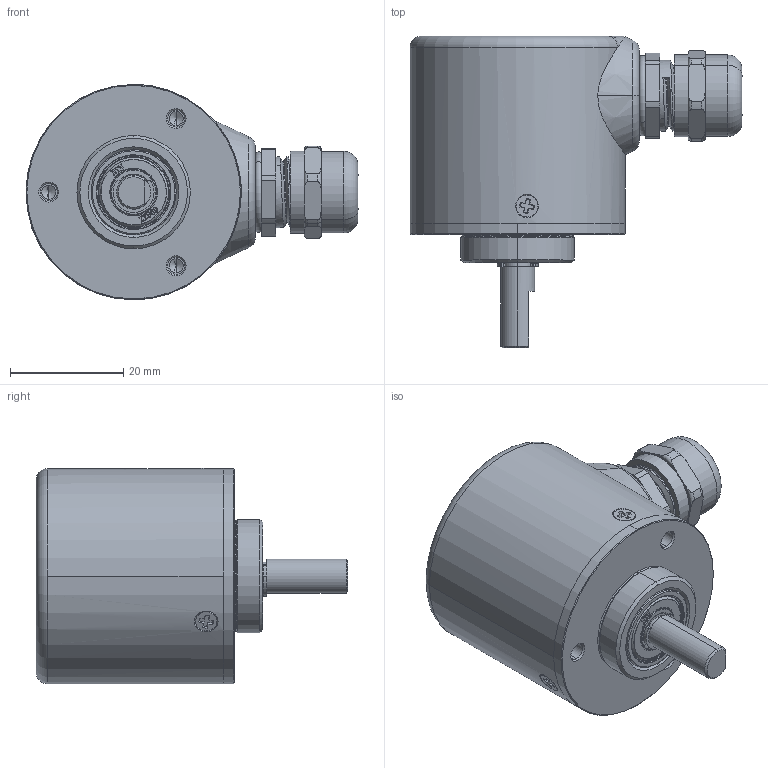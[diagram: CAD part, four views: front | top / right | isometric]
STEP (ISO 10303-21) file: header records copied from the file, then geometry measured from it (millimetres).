
FILE_DESCRIPTION (( 'STEP AP214' ), '1' );
FILE_NAME ('B-ZSM3806.STEP', '2022-07-07T04:50:01', ( '123' ), ( '' ), 'SwSTEP 2.0', 'SolidWorks 2018', '' );
FILE_SCHEMA (( 'AUTOMOTIVE_DESIGN' ));
Length unit declared in the file: millimetre
Products named in the file (1): B-ZSM3806
Bounding box: 58.6 x 55 x 38.06 mm (x, y, z)
Volume: 21614.3 mm3; surface area: 27207.2 mm2
Topology: 29 solids, 29 shells, 1516 faces, 4077 edges, 2715 vertices
Faces by surface type: cylinder 683, plane 345, cone 192, torus 151, bspline 77, sphere 68
Entity records: 81149 total; most frequent: CARTESIAN_POINT 27949, ORIENTED_EDGE 7902, DIRECTION 7199, EDGE_CURVE 3951, AXIS2_PLACEMENT_3D 2842, VERTEX_POINT 2681, EDGE_LOOP 1832, UNCERTAINTY_MEASURE_WITH_UNIT 1547
